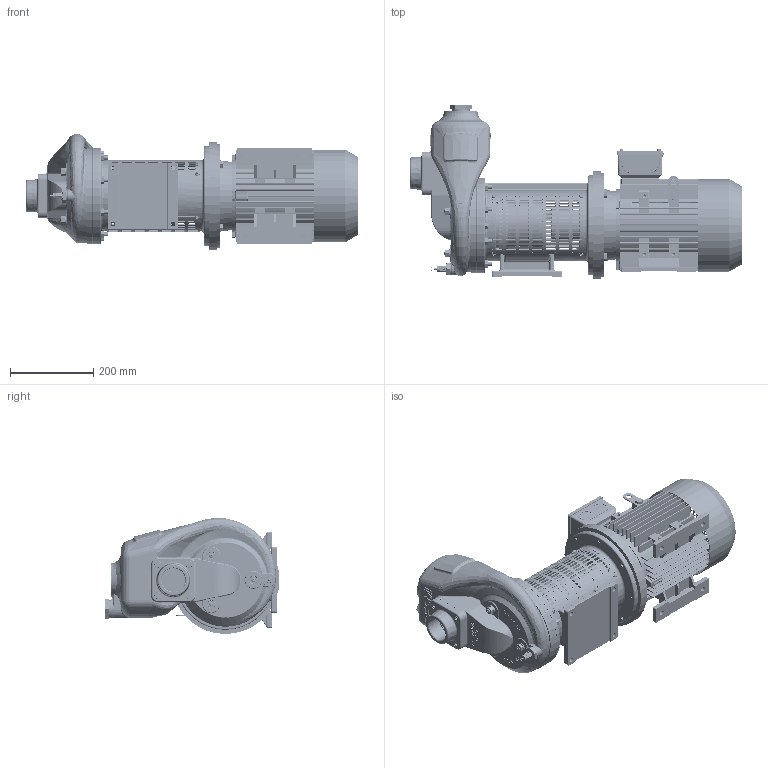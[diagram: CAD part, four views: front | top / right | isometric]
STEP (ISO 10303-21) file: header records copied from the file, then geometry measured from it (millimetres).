
FILE_DESCRIPTION((''),'2;1');
FILE_NAME('SA50-180_4_A-2-H_MOTOR_112_ASM','2019-09-27T',('BRHE'),(''),'PRO/ENGINEER BY PARAMETRIC TECHNOLOGY CORPORATION, 2017170','PRO/ENGINEER BY PARAMETRIC TECHNOLOGY CORPORATION, 2017170','');
FILE_SCHEMA(('CONFIG_CONTROL_DESIGN'));
Products named in the file (49): 502000; 704188; 110371; 709500; 673451_ASM; 506290; 760079; 704190; 506965; 700249; 706913; 709543_AF3; 655309_AF1_ASM; 504011; 504031; 506105; 507153; 704018; 650065_AF3_ASM; 655315_ASM; 700943; 700944; 106284; 100700; 700304; 100699; 508370; 506351; 506332; 700311; 655312_ASM; 509560; 113024_AF0; 706717; 655361_ASM; 508020; 655306_ASM; 655362_ASM; 110531; 704016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
Assembly tree (97 placements, depth 6):
  SA50-180_4_A-2-H_MOTOR_112_ASM
    655362_ASM
      655306_ASM
        655309_AF1_ASM
          502000
          704188
          673451_ASM
            110371
            709500
          506290
          760079  x4
          704190
          506965
          700249  x8
          706913  x8
          709543_AF3
        650065_AF3_ASM
          504011
          504031
          506105
          507153  x3
          704018  x3
          706913  x3
        655312_ASM
          655315_ASM
          700943
          700944
          106284
          100700
          700304  x8
          100699
          508370
          506351
          506332
          700311  x2
        655361_ASM
          509560
          113024_AF0  x2
          706717  x8
        508020
    655319_AF0_ASM
      110531
      704016  x4
      509582
      509591
      112505  x2
      506590  x2
      702583  x2
      700317  x4
    842222
Bounding box: 798.4 x 420.5 x 278.98 mm (x, y, z)
Volume: 18803933.9 mm3; surface area: 2568604.6 mm2
Topology: 107 solids, 188 shells, 9477 faces, 25516 edges, 16460 vertices
Faces by surface type: plane 4318, bspline 2490, cylinder 1513, cone 758, torus 304, sphere 91, revolution 2, extrusion 1
Entity records: 332176 total; most frequent: CARTESIAN_POINT 138269, ORIENTED_EDGE 43254, DIRECTION 33934, EDGE_CURVE 21795, VERTEX_POINT 14210, VECTOR 13298, LINE 13297, AXIS2_PLACEMENT_3D 10317
